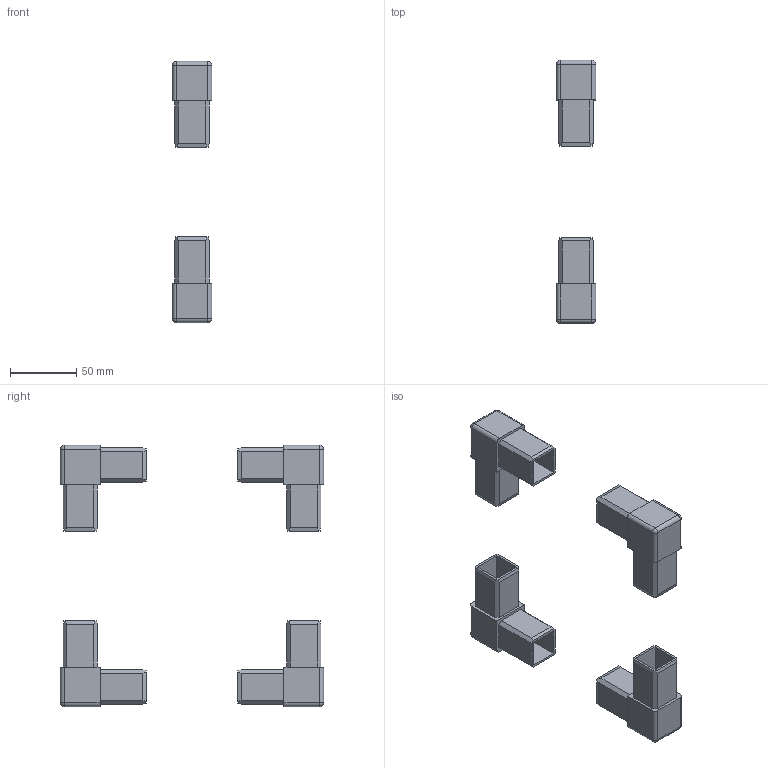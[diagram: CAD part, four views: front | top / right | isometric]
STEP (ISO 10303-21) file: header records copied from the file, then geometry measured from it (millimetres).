
FILE_DESCRIPTION (( 'STEP AP214' ), '1' );
FILE_NAME ('L15812 ENS.step', '2024-12-03T16:21:49', ( '' ), ( '' ), 'SwSTEP 2.0', 'SolidWorks 2023', '' );
FILE_SCHEMA (( 'AUTOMOTIVE_DESIGN' ));
Length unit declared in the file: millimetre
Products named in the file (2): L15812 ENS; L15812
Assembly tree (4 placements, depth 2):
  L15812 ENS
    L15812  x4
Bounding box: 30 x 199.29 x 198.01 mm (x, y, z)
Volume: 115402.4 mm3; surface area: 77850.7 mm2
Topology: 4 solids, 4 shells, 180 faces, 476 edges, 304 vertices
Faces by surface type: plane 152, cylinder 20, sphere 8
Entity records: 1436 total; most frequent: CARTESIAN_POINT 245, ORIENTED_EDGE 234, DIRECTION 231, EDGE_CURVE 117, LINE 107, VECTOR 107, VERTEX_POINT 76, AXIS2_PLACEMENT_3D 62
